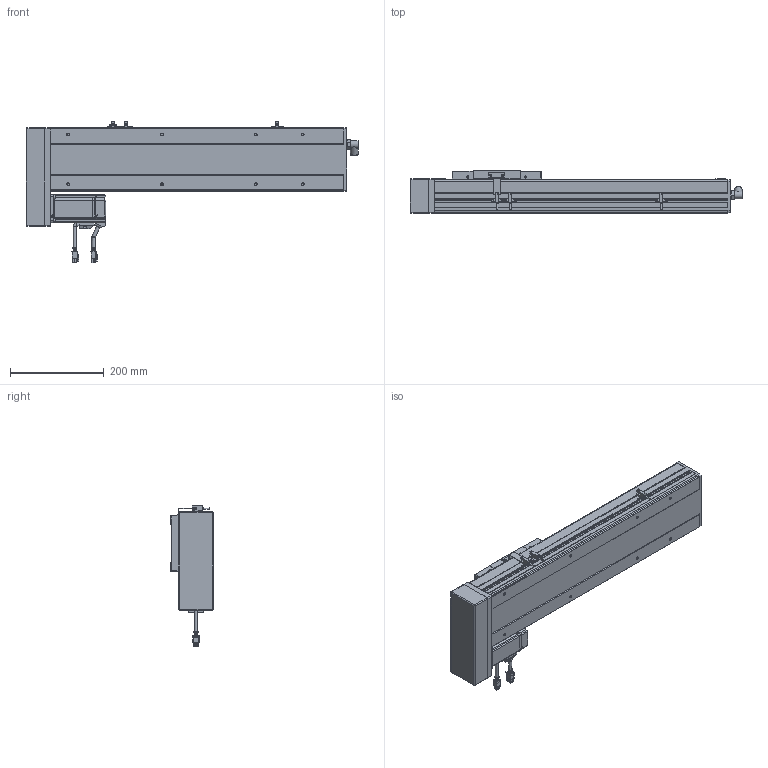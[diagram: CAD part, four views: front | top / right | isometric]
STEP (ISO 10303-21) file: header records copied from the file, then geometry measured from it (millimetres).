
FILE_DESCRIPTION(/* description */ ('STEP AP214'),/* implementation_level */ '2;1');
FILE_NAME(/* name */ 'PSC140-L05-S350-BR-P40-C1-N(0)',/* time_stamp */ '2022-06-13T03:34:49+02:00',/* author */ ('License CC BY-ND 4.0'),/* organization */ ('CADENAS'),/* preprocessor_version */ 'ST-DEVELOPER v18.102',/* originating_system */ 'PARTsolutions',/* authorisation */ ' ');
FILE_SCHEMA (('AUTOMOTIVE_DESIGN {1 0 10303 214 3 1 1}'));
Length unit declared in the file: millimetre
Products named in the file (11): PSC140-L05-S350-BR-P40-C1-N(0); P40-s2; P40-c2; P40-s1; P40-c1; P40-p1; PSC140-BR-body2; PSC140-sensor; PSC140-BR-SLIDER; PSC140-S350-BR-P40-C1_BODY1; PSC140-L05-S350-BR-P40-C1-N(0)_dummy
Assembly tree (12 placements, depth 2):
  PSC140-L05-S350-BR-P40-C1-N(0)
    P40-s2
    P40-c2
    P40-s1
    P40-c1
    P40-p1
    PSC140-BR-body2
    PSC140-sensor  x3
    PSC140-BR-SLIDER
    PSC140-S350-BR-P40-C1_BODY1
    PSC140-L05-S350-BR-P40-C1-N(0)_dummy
Bounding box: 708 x 91 x 300.88 mm (x, y, z)
Volume: 7558728.7 mm3; surface area: 492274.1 mm2
Topology: 11 solids, 11 shells, 1219 faces, 3159 edges, 2091 vertices
Faces by surface type: plane 854, cylinder 310, cone 36, torus 19
Full cylindrical faces by diameter (mm): 1 x8, 2.6 x10, 2.8 x3, 3.3 x8, 4.5 x12, 4.6 x3, 4.917 x12, 5 x4, 5.5 x8, 6 x10, 7 x10, 9 x2, 10 x1, 11 x1, 12 x1, 13.74 x1, 14 x1, 16.4 x2, 16.5 x1, 36 x1, 50 x2
Entity records: 33846 total; most frequent: CARTESIAN_POINT 5917, DIRECTION 5683, ORIENTED_EDGE 5510, EDGE_CURVE 2755, LINE 2097, VECTOR 2097, VERTEX_POINT 1912, AXIS2_PLACEMENT_3D 1793
